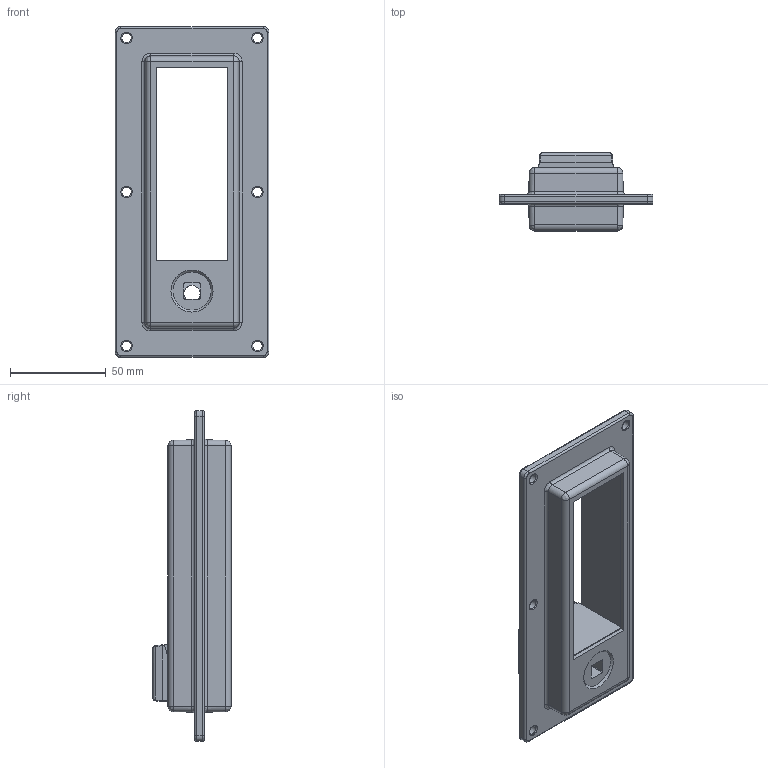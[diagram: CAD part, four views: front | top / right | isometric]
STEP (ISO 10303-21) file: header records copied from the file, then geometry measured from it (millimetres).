
FILE_DESCRIPTION( ('This file contains a STEP AP42 implementation' ,'as created by ZW3D STEP Interface translator.') ,'2;1' );
FILE_NAME( '100401 KML 10-4.stp' ,'23 415.133957', (''), ('ZWCAD Software Co.'), 'Version 1.0', 'ZW3D to STEP translator', '' );
FILE_SCHEMA(('AUTOMOTIVE_DESIGN { 1 0 10303 214 1 1 1 1 }'));
Length unit declared in the file: millimetre
Products named in the file (2): 0; 100401 KML 10-4
Bounding box: 80.5 x 40.83 x 173 mm (x, y, z)
Volume: 130801.3 mm3; surface area: 49254.7 mm2
Topology: 1 solids, 1 shells, 177 faces, 477 edges, 293 vertices
Faces by surface type: cylinder 69, plane 60, bspline 46, cone 2
Full cylindrical faces by diameter (mm): 5 x6, 8.5 x1
Entity records: 7390 total; most frequent: CARTESIAN_POINT 3286, ORIENTED_EDGE 924, DIRECTION 691, EDGE_CURVE 462, VERTEX_POINT 293, AXIS2_PLACEMENT_3D 237, VECTOR 217, LINE 217
